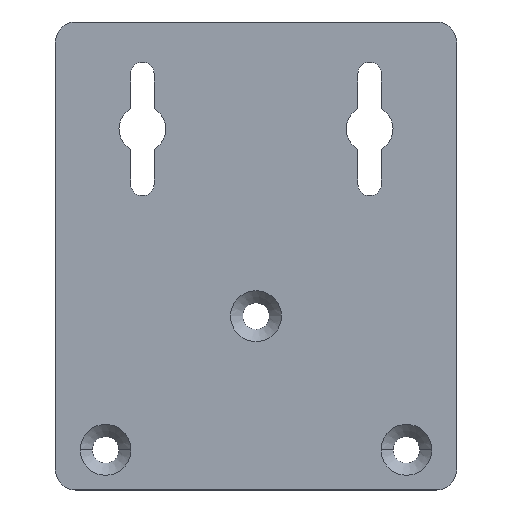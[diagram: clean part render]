
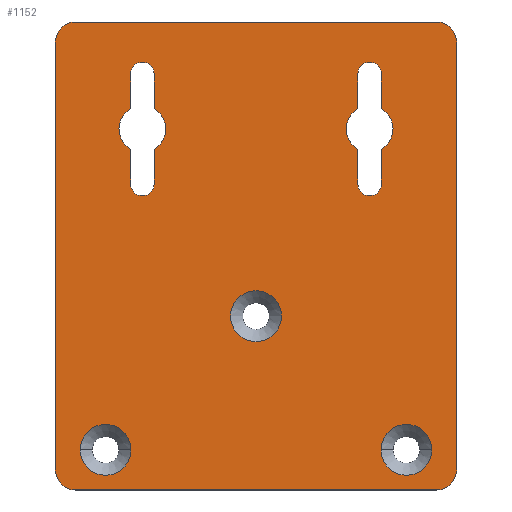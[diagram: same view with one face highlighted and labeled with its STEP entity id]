
A CAD part, top view. The second image highlights one B-rep face of the part: STEP entity #1152.
In plain terms, the highlighted planar face has unit normal (0, 0, 1).
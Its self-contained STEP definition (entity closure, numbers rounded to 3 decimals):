
#289=CARTESIAN_POINT('',(-27.,32.,2.));
#290=DIRECTION('',(0.,0.,1.));
#291=DIRECTION('',(0.,1.,0.));
#292=AXIS2_PLACEMENT_3D('',#289,#290,#291);
#297=DIRECTION('',(-1.,0.,0.));
#298=VECTOR('',#297,54.);
#299=CARTESIAN_POINT('',(27.,35.,2.));
#300=LINE('',#299,#298);
#304=CARTESIAN_POINT('',(27.,32.,2.));
#305=DIRECTION('',(0.,0.,1.));
#306=DIRECTION('',(1.,0.,0.));
#307=AXIS2_PLACEMENT_3D('',#304,#305,#306);
#312=DIRECTION('',(0.,1.,0.));
#313=VECTOR('',#312,64.);
#314=CARTESIAN_POINT('',(30.,-32.,2.));
#315=LINE('',#314,#313);
#319=CARTESIAN_POINT('',(27.,-32.,2.));
#320=DIRECTION('',(0.,0.,1.));
#321=DIRECTION('',(0.,-1.,0.));
#322=AXIS2_PLACEMENT_3D('',#319,#320,#321);
#327=DIRECTION('',(1.,0.,0.));
#328=VECTOR('',#327,54.);
#329=CARTESIAN_POINT('',(-27.,-35.,2.));
#330=LINE('',#329,#328);
#334=CARTESIAN_POINT('',(-27.,-32.,2.));
#335=DIRECTION('',(0.,0.,1.));
#336=DIRECTION('',(-1.,0.,0.));
#337=AXIS2_PLACEMENT_3D('',#334,#335,#336);
#342=DIRECTION('',(0.,-1.,0.));
#343=VECTOR('',#342,64.);
#344=CARTESIAN_POINT('',(-30.,32.,2.));
#345=LINE('',#344,#343);
#349=CARTESIAN_POINT('',(-22.5,-29.,2.));
#350=DIRECTION('',(0.,0.,-1.));
#351=DIRECTION('',(-1.,0.,0.));
#352=AXIS2_PLACEMENT_3D('',#349,#350,#351);
#357=CARTESIAN_POINT('',(-22.5,-29.,2.));
#358=DIRECTION('',(0.,0.,-1.));
#359=DIRECTION('',(1.,0.,0.));
#360=AXIS2_PLACEMENT_3D('',#357,#358,#359);
#365=CARTESIAN_POINT('',(0.,-9.,2.));
#366=DIRECTION('',(0.,0.,-1.));
#367=DIRECTION('',(1.,0.,0.));
#368=AXIS2_PLACEMENT_3D('',#365,#366,#367);
#373=CARTESIAN_POINT('',(0.,-9.,2.));
#374=DIRECTION('',(0.,0.,-1.));
#375=DIRECTION('',(-1.,0.,0.));
#376=AXIS2_PLACEMENT_3D('',#373,#374,#375);
#381=CARTESIAN_POINT('',(22.5,-29.,2.));
#382=DIRECTION('',(0.,0.,-1.));
#383=DIRECTION('',(-1.,0.,0.));
#384=AXIS2_PLACEMENT_3D('',#381,#382,#383);
#389=CARTESIAN_POINT('',(22.5,-29.,2.));
#390=DIRECTION('',(0.,0.,-1.));
#391=DIRECTION('',(1.,0.,0.));
#392=AXIS2_PLACEMENT_3D('',#389,#390,#391);
#397=CARTESIAN_POINT('',(17.,27.25,2.));
#398=DIRECTION('',(0.,0.,1.));
#399=DIRECTION('',(1.,0.,0.));
#400=AXIS2_PLACEMENT_3D('',#397,#398,#399);
#405=DIRECTION('',(0.,-1.,0.));
#406=VECTOR('',#405,5.219);
#407=CARTESIAN_POINT('',(15.25,27.25,2.));
#408=LINE('',#407,#406);
#412=CARTESIAN_POINT('',(17.,19.,2.));
#413=DIRECTION('',(0.,0.,1.));
#414=DIRECTION('',(-0.5,0.866,0.));
#415=AXIS2_PLACEMENT_3D('',#412,#413,#414);
#420=DIRECTION('',(0.,-1.,0.));
#421=VECTOR('',#420,5.219);
#422=CARTESIAN_POINT('',(15.25,15.969,2.));
#423=LINE('',#422,#421);
#427=CARTESIAN_POINT('',(17.,10.75,2.));
#428=DIRECTION('',(0.,0.,1.));
#429=DIRECTION('',(-1.,0.,0.));
#430=AXIS2_PLACEMENT_3D('',#427,#428,#429);
#435=DIRECTION('',(0.,1.,0.));
#436=VECTOR('',#435,5.219);
#437=CARTESIAN_POINT('',(18.75,10.75,2.));
#438=LINE('',#437,#436);
#442=CARTESIAN_POINT('',(17.,19.,2.));
#443=DIRECTION('',(0.,0.,1.));
#444=DIRECTION('',(0.5,-0.866,0.));
#445=AXIS2_PLACEMENT_3D('',#442,#443,#444);
#450=DIRECTION('',(0.,1.,0.));
#451=VECTOR('',#450,5.219);
#452=CARTESIAN_POINT('',(18.75,22.031,2.));
#453=LINE('',#452,#451);
#457=CARTESIAN_POINT('',(-17.,27.25,2.));
#458=DIRECTION('',(0.,0.,1.));
#459=DIRECTION('',(1.,0.,0.));
#460=AXIS2_PLACEMENT_3D('',#457,#458,#459);
#465=DIRECTION('',(0.,-1.,0.));
#466=VECTOR('',#465,5.219);
#467=CARTESIAN_POINT('',(-18.75,27.25,2.));
#468=LINE('',#467,#466);
#472=CARTESIAN_POINT('',(-17.,19.,2.));
#473=DIRECTION('',(0.,0.,1.));
#474=DIRECTION('',(-0.5,0.866,0.));
#475=AXIS2_PLACEMENT_3D('',#472,#473,#474);
#480=DIRECTION('',(0.,-1.,0.));
#481=VECTOR('',#480,5.219);
#482=CARTESIAN_POINT('',(-18.75,15.969,2.));
#483=LINE('',#482,#481);
#487=CARTESIAN_POINT('',(-17.,10.75,2.));
#488=DIRECTION('',(0.,0.,1.));
#489=DIRECTION('',(-1.,0.,0.));
#490=AXIS2_PLACEMENT_3D('',#487,#488,#489);
#495=DIRECTION('',(0.,1.,0.));
#496=VECTOR('',#495,5.219);
#497=CARTESIAN_POINT('',(-15.25,10.75,2.));
#498=LINE('',#497,#496);
#502=CARTESIAN_POINT('',(-17.,19.,2.));
#503=DIRECTION('',(0.,0.,1.));
#504=DIRECTION('',(0.5,-0.866,0.));
#505=AXIS2_PLACEMENT_3D('',#502,#503,#504);
#510=DIRECTION('',(0.,1.,0.));
#511=VECTOR('',#510,5.219);
#512=CARTESIAN_POINT('',(-15.25,22.031,2.));
#513=LINE('',#512,#511);
#765=CARTESIAN_POINT('',(-27.,35.,2.));
#766=VERTEX_POINT('',#765);
#767=CARTESIAN_POINT('',(-30.,32.,2.));
#768=VERTEX_POINT('',#767);
#773=CARTESIAN_POINT('',(30.,32.,2.));
#774=VERTEX_POINT('',#773);
#775=CARTESIAN_POINT('',(27.,35.,2.));
#776=VERTEX_POINT('',#775);
#781=CARTESIAN_POINT('',(-30.,-32.,2.));
#782=VERTEX_POINT('',#781);
#783=CARTESIAN_POINT('',(-27.,-35.,2.));
#784=VERTEX_POINT('',#783);
#789=CARTESIAN_POINT('',(27.,-35.,2.));
#790=VERTEX_POINT('',#789);
#791=CARTESIAN_POINT('',(30.,-32.,2.));
#792=VERTEX_POINT('',#791);
#805=CARTESIAN_POINT('',(-26.3,-29.,2.));
#806=CARTESIAN_POINT('',(-18.7,-29.,2.));
#807=VERTEX_POINT('',#805);
#808=VERTEX_POINT('',#806);
#813=CARTESIAN_POINT('',(3.8,-9.,2.));
#814=CARTESIAN_POINT('',(-3.8,-9.,2.));
#815=VERTEX_POINT('',#813);
#816=VERTEX_POINT('',#814);
#821=CARTESIAN_POINT('',(18.7,-29.,2.));
#822=CARTESIAN_POINT('',(26.3,-29.,2.));
#823=VERTEX_POINT('',#821);
#824=VERTEX_POINT('',#822);
#861=CARTESIAN_POINT('',(18.75,27.25,2.));
#862=CARTESIAN_POINT('',(15.25,27.25,2.));
#863=VERTEX_POINT('',#861);
#864=VERTEX_POINT('',#862);
#865=CARTESIAN_POINT('',(15.25,22.031,2.));
#866=VERTEX_POINT('',#865);
#867=CARTESIAN_POINT('',(15.25,15.969,2.));
#868=VERTEX_POINT('',#867);
#869=CARTESIAN_POINT('',(15.25,10.75,2.));
#870=VERTEX_POINT('',#869);
#871=CARTESIAN_POINT('',(18.75,10.75,2.));
#872=VERTEX_POINT('',#871);
#873=CARTESIAN_POINT('',(18.75,15.969,2.));
#874=VERTEX_POINT('',#873);
#875=CARTESIAN_POINT('',(18.75,22.031,2.));
#876=VERTEX_POINT('',#875);
#877=CARTESIAN_POINT('',(-15.25,27.25,2.));
#878=CARTESIAN_POINT('',(-18.75,27.25,2.));
#879=VERTEX_POINT('',#877);
#880=VERTEX_POINT('',#878);
#881=CARTESIAN_POINT('',(-18.75,22.031,2.));
#882=VERTEX_POINT('',#881);
#883=CARTESIAN_POINT('',(-18.75,15.969,2.));
#884=VERTEX_POINT('',#883);
#885=CARTESIAN_POINT('',(-18.75,10.75,2.));
#886=VERTEX_POINT('',#885);
#887=CARTESIAN_POINT('',(-15.25,10.75,2.));
#888=VERTEX_POINT('',#887);
#889=CARTESIAN_POINT('',(-15.25,15.969,2.));
#890=VERTEX_POINT('',#889);
#891=CARTESIAN_POINT('',(-15.25,22.031,2.));
#892=VERTEX_POINT('',#891);
#1083=CARTESIAN_POINT('',(0.,0.,2.));
#1084=DIRECTION('',(0.,0.,1.));
#1085=DIRECTION('',(1.,0.,0.));
#1086=AXIS2_PLACEMENT_3D('',#1083,#1084,#1085);
#1087=PLANE('',#1086);
#1088=ORIENTED_EDGE('',*,*,#979,.F.);
#1089=ORIENTED_EDGE('',*,*,#995,.F.);
#1090=ORIENTED_EDGE('',*,*,#1008,.F.);
#1091=ORIENTED_EDGE('',*,*,#1023,.F.);
#1092=ORIENTED_EDGE('',*,*,#1036,.F.);
#1093=ORIENTED_EDGE('',*,*,#1049,.F.);
#1094=ORIENTED_EDGE('',*,*,#1064,.F.);
#1095=ORIENTED_EDGE('',*,*,#1076,.F.);
#1096=EDGE_LOOP('',(#1088,#1089,#1090,#1091,#1092,#1093,#1094,#1095));
#1097=FACE_OUTER_BOUND('',#1096,.F.);
#1099=ORIENTED_EDGE('',*,*,#1098,.F.);
#1101=ORIENTED_EDGE('',*,*,#1100,.F.);
#1102=EDGE_LOOP('',(#1099,#1101));
#1103=FACE_BOUND('',#1102,.F.);
#1105=ORIENTED_EDGE('',*,*,#1104,.F.);
#1107=ORIENTED_EDGE('',*,*,#1106,.F.);
#1108=EDGE_LOOP('',(#1105,#1107));
#1109=FACE_BOUND('',#1108,.F.);
#1111=ORIENTED_EDGE('',*,*,#1110,.F.);
#1113=ORIENTED_EDGE('',*,*,#1112,.F.);
#1114=EDGE_LOOP('',(#1111,#1113));
#1115=FACE_BOUND('',#1114,.F.);
#1117=ORIENTED_EDGE('',*,*,#1116,.T.);
#1119=ORIENTED_EDGE('',*,*,#1118,.T.);
#1121=ORIENTED_EDGE('',*,*,#1120,.T.);
#1123=ORIENTED_EDGE('',*,*,#1122,.T.);
#1125=ORIENTED_EDGE('',*,*,#1124,.T.);
#1127=ORIENTED_EDGE('',*,*,#1126,.T.);
#1129=ORIENTED_EDGE('',*,*,#1128,.T.);
#1131=ORIENTED_EDGE('',*,*,#1130,.T.);
#1132=EDGE_LOOP('',(#1117,#1119,#1121,#1123,#1125,#1127,#1129,#1131));
#1133=FACE_BOUND('',#1132,.F.);
#1135=ORIENTED_EDGE('',*,*,#1134,.T.);
#1137=ORIENTED_EDGE('',*,*,#1136,.T.);
#1139=ORIENTED_EDGE('',*,*,#1138,.T.);
#1141=ORIENTED_EDGE('',*,*,#1140,.T.);
#1143=ORIENTED_EDGE('',*,*,#1142,.T.);
#1145=ORIENTED_EDGE('',*,*,#1144,.T.);
#1147=ORIENTED_EDGE('',*,*,#1146,.T.);
#1149=ORIENTED_EDGE('',*,*,#1148,.T.);
#1150=EDGE_LOOP('',(#1135,#1137,#1139,#1141,#1143,#1145,#1147,#1149));
#1151=FACE_BOUND('',#1150,.F.);
#1152=ADVANCED_FACE('',(#1097,#1103,#1109,#1115,#1133,#1151),#1087,.T.);
#293=CIRCLE('',#292,3.);
#308=CIRCLE('',#307,3.);
#323=CIRCLE('',#322,3.);
#338=CIRCLE('',#337,3.);
#353=CIRCLE('',#352,3.8);
#361=CIRCLE('',#360,3.8);
#369=CIRCLE('',#368,3.8);
#377=CIRCLE('',#376,3.8);
#385=CIRCLE('',#384,3.8);
#393=CIRCLE('',#392,3.8);
#401=CIRCLE('',#400,1.75);
#416=CIRCLE('',#415,3.5);
#431=CIRCLE('',#430,1.75);
#446=CIRCLE('',#445,3.5);
#461=CIRCLE('',#460,1.75);
#476=CIRCLE('',#475,3.5);
#491=CIRCLE('',#490,1.75);
#506=CIRCLE('',#505,3.5);
#979=EDGE_CURVE('',#766,#768,#293,.T.);
#995=EDGE_CURVE('',#776,#766,#300,.T.);
#1008=EDGE_CURVE('',#774,#776,#308,.T.);
#1023=EDGE_CURVE('',#792,#774,#315,.T.);
#1036=EDGE_CURVE('',#790,#792,#323,.T.);
#1049=EDGE_CURVE('',#784,#790,#330,.T.);
#1064=EDGE_CURVE('',#782,#784,#338,.T.);
#1076=EDGE_CURVE('',#768,#782,#345,.T.);
#1098=EDGE_CURVE('',#807,#808,#353,.T.);
#1100=EDGE_CURVE('',#808,#807,#361,.T.);
#1104=EDGE_CURVE('',#815,#816,#369,.T.);
#1106=EDGE_CURVE('',#816,#815,#377,.T.);
#1110=EDGE_CURVE('',#823,#824,#385,.T.);
#1112=EDGE_CURVE('',#824,#823,#393,.T.);
#1116=EDGE_CURVE('',#863,#864,#401,.T.);
#1118=EDGE_CURVE('',#864,#866,#408,.T.);
#1120=EDGE_CURVE('',#866,#868,#416,.T.);
#1122=EDGE_CURVE('',#868,#870,#423,.T.);
#1124=EDGE_CURVE('',#870,#872,#431,.T.);
#1126=EDGE_CURVE('',#872,#874,#438,.T.);
#1128=EDGE_CURVE('',#874,#876,#446,.T.);
#1130=EDGE_CURVE('',#876,#863,#453,.T.);
#1134=EDGE_CURVE('',#879,#880,#461,.T.);
#1136=EDGE_CURVE('',#880,#882,#468,.T.);
#1138=EDGE_CURVE('',#882,#884,#476,.T.);
#1140=EDGE_CURVE('',#884,#886,#483,.T.);
#1142=EDGE_CURVE('',#886,#888,#491,.T.);
#1144=EDGE_CURVE('',#888,#890,#498,.T.);
#1146=EDGE_CURVE('',#890,#892,#506,.T.);
#1148=EDGE_CURVE('',#892,#879,#513,.T.);
